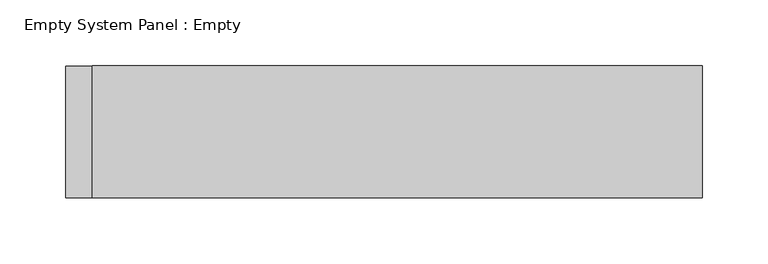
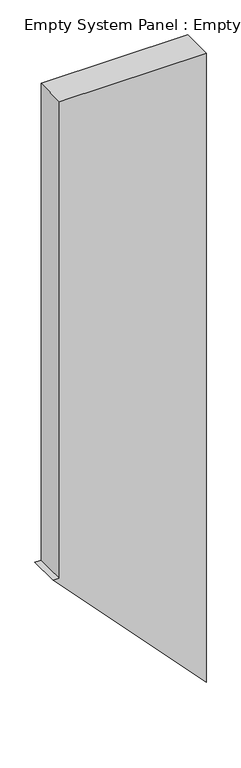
"""IFC4 building model written with IfcOpenShell, lengths in millimetres: plate geometry, Empty System Panel : Empty."""

from ifc_helpers import new_model, si_unit, frame, origin, place, context, project, spatial, polyline, outline, extrude, source, transform, mapped, element, save


def empty_system_panel_empty_d343bbb5(model_context):
    return source(origin(), model_context, "Body", "SweptSolid", [
        extrude(outline(polyline([(510.177857, -241.6440778), (0.0, 241.6440778), (2104.0497721, 241.6440778), (2104.0497721, -221.6440778), (510.177857, -221.6440778), (510.177857, -241.6440778)])), frame((0.0, -50.0, 0.0), z_axis=(0.0, 1.0, 0.0), x_axis=(0.0, 0.0, 1.0)), (0.0, 0.0, 1.0), 100.0),
    ])


if __name__ == "__main__":
    model = new_model("IFC4")
    model_context = context("Model", 3, world=origin())
    ifc_project = project(units=[si_unit("LENGTHUNIT", "METRE", prefix="MILLI")], contexts=[model_context])
    site = spatial("IfcSite", under=ifc_project)
    building = spatial("IfcBuilding", under=site)
    placement = place(None, origin())
    empty_system_panel_empty_shape = empty_system_panel_empty_d343bbb5(model_context)
    element("IfcPlate", 1, ObjectType="Empty System Panel : Empty", at=placement, inside=building, context=model_context, shape_type="MappedRepresentation", body=[
        mapped(empty_system_panel_empty_shape, transform((0.0, 0.0, 0.0), x_axis=(1.0, 0.0, 0.0), y_axis=(0.0, 1.0, 0.0), z_axis=(0.0, 0.0, 1.0))),
    ])
    save(model, "model.ifc")
